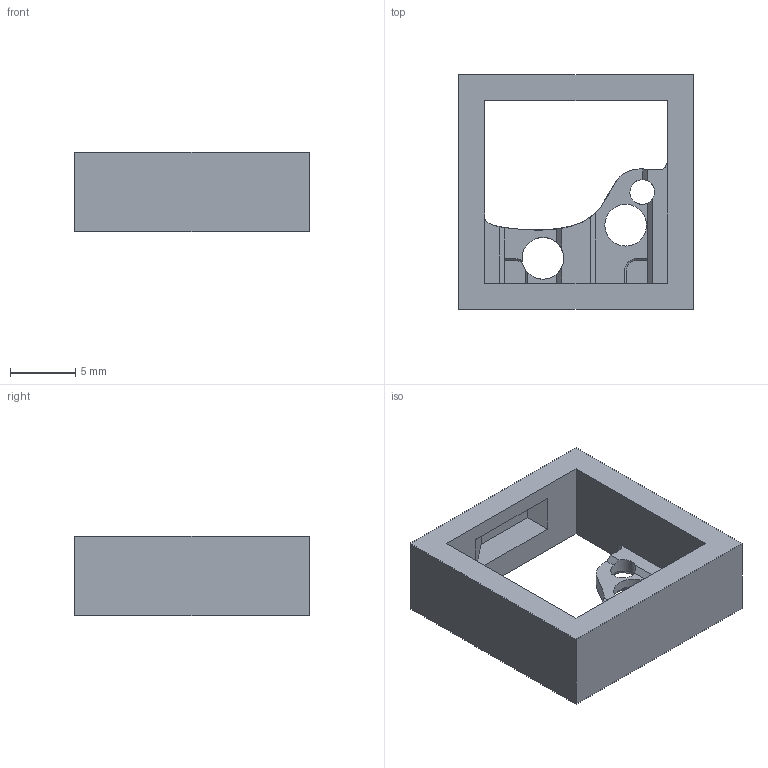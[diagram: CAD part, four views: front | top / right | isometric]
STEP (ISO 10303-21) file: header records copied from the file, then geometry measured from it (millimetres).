
FILE_DESCRIPTION(('Open CASCADE Model'),'2;1');
FILE_NAME('Open CASCADE Shape Model','2026-05-31T19:43:38',('Author'),( 'Open CASCADE'),'Open CASCADE STEP processor 7.6','Open CASCADE 7.6' ,'Unknown');
FILE_SCHEMA(('AP242_MANAGED_MODEL_BASED_3D_ENGINEERING_MIM_LF. {1 0 10303 442 1 1 4 }'));
Length unit declared in the file: millimetre
Products named in the file (1): Open CASCADE STEP translator 7.6 17
Bounding box: 18 x 18 x 6.1 mm (x, y, z)
Volume: 829.7 mm3; surface area: 1188 mm2
Topology: 1 solids, 1 shells, 52 faces, 148 edges, 97 vertices
Faces by surface type: plane 41, cone 6, cylinder 4, bspline 1
Full cylindrical faces by diameter (mm): 1.9 x1, 3.2 x2
Entity records: 4054 total; most frequent: CARTESIAN_POINT 1143, DIRECTION 519, LINE 347, VECTOR 347, ORIENTED_EDGE 296, PCURVE 296, DEFINITIONAL_REPRESENTATION 296, EDGE_CURVE 148
